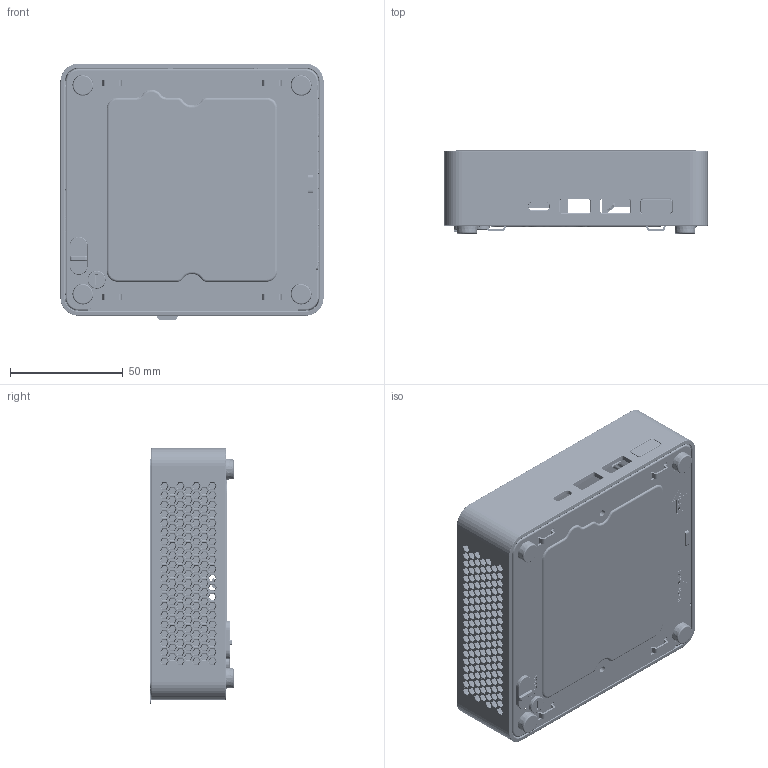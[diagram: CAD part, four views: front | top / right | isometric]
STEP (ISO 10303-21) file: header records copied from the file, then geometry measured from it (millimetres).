
FILE_DESCRIPTION((''),'2;1');
FILE_NAME('0_NUC14R3_RV_NUC_ASM','2025-02-05T10:27:54',('GuyiChen'),(''),'CREO PARAMETRIC BY PTC INC, 2020354','CREO PARAMETRIC BY PTC INC, 2020354','');
FILE_SCHEMA(('AUTOMOTIVE_DESIGN { 1 0 10303 214 1 1 1 1 }'));
Products named in the file (37): PLS_COVER_LID_RV_CM-A2; FILM_COVER_TOP_NUC_RV_CM; ASM_LID_NUC14R3_RV_NUC_ASM; PLS_COVER_TOP_S_RV_CM_A2-UNI; BKT_COVER_TOP_S_RV_CM_A2; STD_COVER_TOP_BKT_RV_CM; ASM_BKT_COVER_TOP_S_RV_CM_A2_ASM; PLS_POWER_BUTTON_RV_CM_A2; MYLAR_K-LOCK-S_NUC_RV_CM; MYLAR_TOP_COVER_S_RV_CM; SPONGE_POW_BTN_RUBBER_NUC_RV_CM; SCREW_I_M2_5X5_22-235-250503; ASM_TOP_NUC14R3K_RV_NUC_ASM; BKT_BOT_COVER_NUC14R3K; STD_BTM_THM_CU_S_NUC_RV_CM; STD_VESA_BKT_S_NUC_LC; STD_LATCH_BTM_COVER_RV_CM; ASM_BKT_COVER_BTM_S_RV_CM_A2_ASM; PLS_BTM_LATCH_RV_CM; NUT-M2XL2-OD3; ASM_PLS_BTM_LATCH_RV_CM_AF0_ASM; BKT_BTM_HOOK_RV_CM_MIR; SCREW-M2-L3-D5-H0_5; SPRING_RV_CM; PLS_LATCH_LOCK_COVER_BOT_CON; PLS_RING_LATCH_LOCK_BOT_CON; AL_FOIL_NUC14R3K; MYLAR_FOIL_NUC14R3K; ASM_AL_MYLAR_NUC14R3K_ASM; RUBBER_SSD_CONN_S_NUC_LC; RUBBER_FOOT_NUC14R3; RUBBER_DIMM_RV_CM; ASM_BOT_NUC14R3K_RV_NUC_AF1_ASM; ASM_BOT_FULL_NUC14R3K_AF0_ASM; ASM_NUC14R3K_RV_NUC_ASM; ASM_SYS_NUC14R3_RV_NUC_ASM; 0_NUC14R3_RV_NUC_ASM
Assembly tree (53 placements, depth 7):
  0_NUC14R3_RV_NUC_ASM
    ASM_SYS_NUC14R3_RV_NUC_ASM
      ASM_LID_NUC14R3_RV_NUC_ASM
        PLS_COVER_LID_RV_CM-A2
        FILM_COVER_TOP_NUC_RV_CM
      ASM_NUC14R3K_RV_NUC_ASM
        ASM_TOP_NUC14R3K_RV_NUC_ASM
          PLS_COVER_TOP_S_RV_CM_A2-UNI
          ASM_BKT_COVER_TOP_S_RV_CM_A2_ASM
            BKT_COVER_TOP_S_RV_CM_A2
            STD_COVER_TOP_BKT_RV_CM  x4
          PLS_POWER_BUTTON_RV_CM_A2
          MYLAR_K-LOCK-S_NUC_RV_CM
          MYLAR_TOP_COVER_S_RV_CM
          SPONGE_POW_BTN_RUBBER_NUC_RV_CM
          SCREW_I_M2_5X5_22-235-250503  x4
        ASM_BOT_FULL_NUC14R3K_AF0_ASM
          ASM_BOT_NUC14R3K_RV_NUC_AF1_ASM
            ASM_BKT_COVER_BTM_S_RV_CM_A2_ASM
              BKT_BOT_COVER_NUC14R3K
              STD_BTM_THM_CU_S_NUC_RV_CM  x2
              STD_VESA_BKT_S_NUC_LC  x2
              STD_LATCH_BTM_COVER_RV_CM
            ASM_PLS_BTM_LATCH_RV_CM_AF0_ASM
              PLS_BTM_LATCH_RV_CM
              NUT-M2XL2-OD3
            BKT_BTM_HOOK_RV_CM_MIR
            SCREW-M2-L3-D5-H0_5  x3
            SPRING_RV_CM
            PLS_LATCH_LOCK_COVER_BOT_CON
            PLS_RING_LATCH_LOCK_BOT_CON
            ASM_AL_MYLAR_NUC14R3K_ASM  x4
              AL_FOIL_NUC14R3K
              MYLAR_FOIL_NUC14R3K
            RUBBER_SSD_CONN_S_NUC_LC
            RUBBER_FOOT_NUC14R3  x4
            MYLAR_K-LOCK-S_NUC_RV_CM
            RUBBER_DIMM_RV_CM
Bounding box: 117 x 36.95 x 114 mm (x, y, z)
Volume: 76670.2 mm3; surface area: 171341.1 mm2
Topology: 46 solids, 48 shells, 10801 faces, 28216 edges, 17519 vertices
Faces by surface type: plane 5941, cylinder 3518, cone 551, torus 441, bspline 310, sphere 36, extrusion 4
Entity records: 397089 total; most frequent: CARTESIAN_POINT 86893, ORIENTED_EDGE 52132, DIRECTION 46714, EDGE_CURVE 26070, VECTOR 18776, LINE 18772, VERTEX_POINT 16109, AXIS2_PLACEMENT_3D 13969
